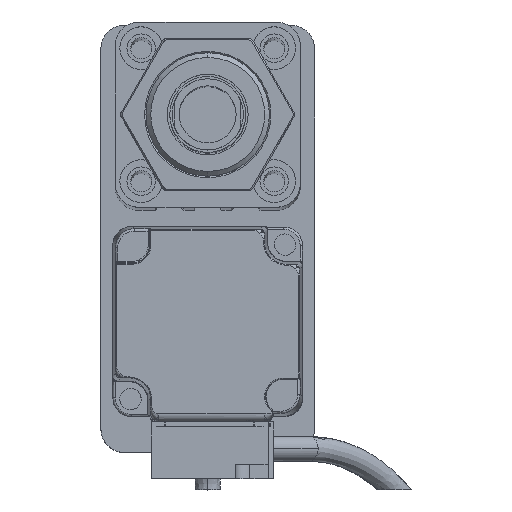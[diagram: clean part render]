
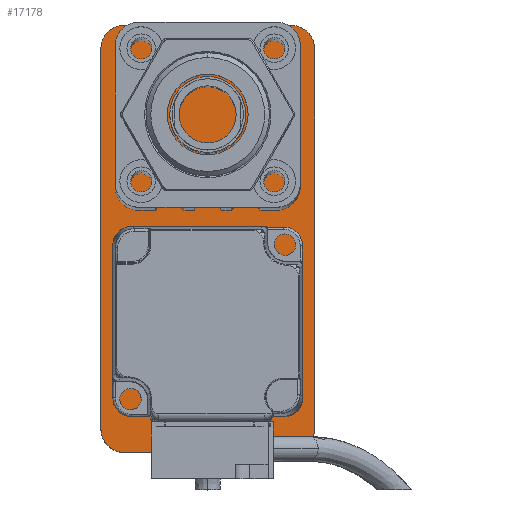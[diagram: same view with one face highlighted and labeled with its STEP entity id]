
A CAD part, top view. The second image highlights one B-rep face of the part: STEP entity #17178.
In plain terms, the highlighted planar face has unit normal (0, 0, 1).
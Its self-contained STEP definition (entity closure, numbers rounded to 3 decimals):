
#324 = DIRECTION ( 'NONE',  ( 0., -1., 0. ) ) ;
#337 = CARTESIAN_POINT ( 'NONE',  ( 17.5, -45., 10. ) ) ;
#540 = EDGE_CURVE ( 'NONE', #9436, #25482, #27362, .T. ) ;
#1210 = CARTESIAN_POINT ( 'NONE',  ( -22.5, -40., 10. ) ) ;
#1211 = CARTESIAN_POINT ( 'NONE',  ( -17.5, 40., 10. ) ) ;
#1568 = AXIS2_PLACEMENT_3D ( 'NONE', #4769, #17780, #2520 ) ;
#1659 = VECTOR ( 'NONE', #17264, 1000. ) ;
#1680 = ORIENTED_EDGE ( 'NONE', *, *, #22545, .T. ) ;
#1948 = VERTEX_POINT ( 'NONE', #1210 ) ;
#2381 = CARTESIAN_POINT ( 'NONE',  ( 22.5, -40., 10. ) ) ;
#2520 = DIRECTION ( 'NONE',  ( 1., 0., 0. ) ) ;
#2617 = CARTESIAN_POINT ( 'NONE',  ( -17.5, 45., 10. ) ) ;
#2814 = CARTESIAN_POINT ( 'NONE',  ( 17.5, -40., 10. ) ) ;
#3550 = DIRECTION ( 'NONE',  ( 0., 0., 1. ) ) ;
#3612 = ORIENTED_EDGE ( 'NONE', *, *, #13098, .T. ) ;
#4769 = CARTESIAN_POINT ( 'NONE',  ( -17.5, -40., 10. ) ) ;
#4774 = AXIS2_PLACEMENT_3D ( 'NONE', #25130, #18676, #10094 ) ;
#4905 = VERTEX_POINT ( 'NONE', #7362 ) ;
#5543 = FACE_OUTER_BOUND ( 'NONE', #24111, .T. ) ;
#5727 = CARTESIAN_POINT ( 'NONE',  ( 22.5, -45., 10. ) ) ;
#7362 = CARTESIAN_POINT ( 'NONE',  ( -17.5, -45., 10. ) ) ;
#7781 = CARTESIAN_POINT ( 'NONE',  ( 17.5, 40., 10. ) ) ;
#7788 = EDGE_CURVE ( 'NONE', #1948, #4905, #12755, .T. ) ;
#7921 = PLANE ( 'NONE',  #4774 ) ;
#8822 = ORIENTED_EDGE ( 'NONE', *, *, #7788, .T. ) ;
#8994 = VECTOR ( 'NONE', #20684, 1000. ) ;
#9030 = CARTESIAN_POINT ( 'NONE',  ( -22.5, 40., 10. ) ) ;
#9436 = VERTEX_POINT ( 'NONE', #2617 ) ;
#10053 = LINE ( 'NONE', #25941, #1659 ) ;
#10094 = DIRECTION ( 'NONE',  ( 1., 0., 0. ) ) ;
#10148 = ORIENTED_EDGE ( 'NONE', *, *, #540, .T. ) ;
#12755 = CIRCLE ( 'NONE', #1568, 5. ) ;
#13098 = EDGE_CURVE ( 'NONE', #17683, #9436, #10053, .T. ) ;
#13243 = DIRECTION ( 'NONE',  ( 1., 0., 0. ) ) ;
#13365 = CARTESIAN_POINT ( 'NONE',  ( -22.5, -45., 10. ) ) ;
#13717 = ORIENTED_EDGE ( 'NONE', *, *, #15090, .T. ) ;
#13944 = DIRECTION ( 'NONE',  ( 1., 0., 0. ) ) ;
#14249 = ORIENTED_EDGE ( 'NONE', *, *, #19473, .T. ) ;
#14606 = EDGE_CURVE ( 'NONE', #14962, #19406, #15028, .T. ) ;
#14962 = VERTEX_POINT ( 'NONE', #337 ) ;
#15028 = CIRCLE ( 'NONE', #15311, 5. ) ;
#15090 = EDGE_CURVE ( 'NONE', #19406, #23837, #27699, .T. ) ;
#15279 = DIRECTION ( 'NONE',  ( 0., 0., 1. ) ) ;
#15311 = AXIS2_PLACEMENT_3D ( 'NONE', #2814, #15279, #13243 ) ;
#16582 = CARTESIAN_POINT ( 'NONE',  ( 22.5, -45., 10. ) ) ;
#16867 = EDGE_CURVE ( 'NONE', #23837, #17683, #24968, .T. ) ;
#17178 = ADVANCED_FACE ( 'NONE', ( #5543 ), #7921, .T. ) ;
#17264 = DIRECTION ( 'NONE',  ( -1., 0., 0. ) ) ;
#17683 = VERTEX_POINT ( 'NONE', #27125 ) ;
#17719 = ORIENTED_EDGE ( 'NONE', *, *, #14606, .T. ) ;
#17780 = DIRECTION ( 'NONE',  ( 0., 0., 1. ) ) ;
#18123 = VECTOR ( 'NONE', #27218, 1000. ) ;
#18209 = AXIS2_PLACEMENT_3D ( 'NONE', #7781, #22827, #22549 ) ;
#18676 = DIRECTION ( 'NONE',  ( 0., 0., 1. ) ) ;
#18761 = AXIS2_PLACEMENT_3D ( 'NONE', #1211, #3550, #13944 ) ;
#18859 = VECTOR ( 'NONE', #324, 1000. ) ;
#19139 = ORIENTED_EDGE ( 'NONE', *, *, #16867, .T. ) ;
#19406 = VERTEX_POINT ( 'NONE', #2381 ) ;
#19473 = EDGE_CURVE ( 'NONE', #25482, #1948, #25224, .T. ) ;
#20684 = DIRECTION ( 'NONE',  ( 0., 1., 0. ) ) ;
#22545 = EDGE_CURVE ( 'NONE', #4905, #14962, #24835, .T. ) ;
#22549 = DIRECTION ( 'NONE',  ( 1., 0., 0. ) ) ;
#22827 = DIRECTION ( 'NONE',  ( 0., 0., 1. ) ) ;
#23837 = VERTEX_POINT ( 'NONE', #26768 ) ;
#24111 = EDGE_LOOP ( 'NONE', ( #13717, #19139, #3612, #10148, #14249, #8822, #1680, #17719 ) ) ;
#24835 = LINE ( 'NONE', #16582, #18123 ) ;
#24968 = CIRCLE ( 'NONE', #18209, 5. ) ;
#25130 = CARTESIAN_POINT ( 'NONE',  ( 0., 0., 10. ) ) ;
#25224 = LINE ( 'NONE', #13365, #18859 ) ;
#25482 = VERTEX_POINT ( 'NONE', #9030 ) ;
#25941 = CARTESIAN_POINT ( 'NONE',  ( 22.5, 45., 10. ) ) ;
#26768 = CARTESIAN_POINT ( 'NONE',  ( 22.5, 40., 10. ) ) ;
#27125 = CARTESIAN_POINT ( 'NONE',  ( 17.5, 45., 10. ) ) ;
#27218 = DIRECTION ( 'NONE',  ( 1., 0., 0. ) ) ;
#27362 = CIRCLE ( 'NONE', #18761, 5. ) ;
#27699 = LINE ( 'NONE', #5727, #8994 ) ;
